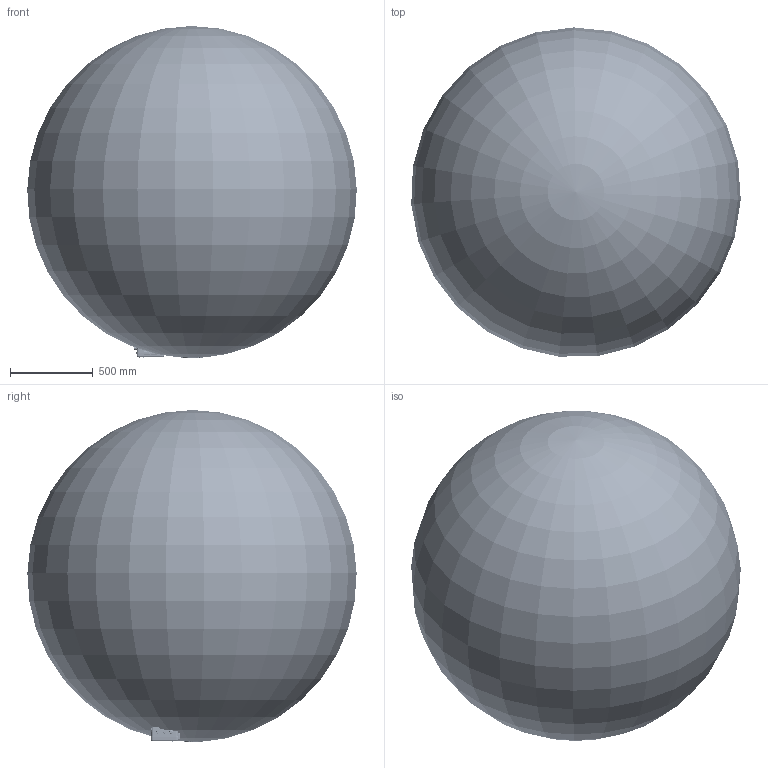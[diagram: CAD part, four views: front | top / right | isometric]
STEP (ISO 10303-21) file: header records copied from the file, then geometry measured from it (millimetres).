
FILE_DESCRIPTION(('STEP AP242'), '1');
FILE_NAME('ÑÃ-ÝÊÐ-Ð-400 ñ ÏÏÄ ñíèçó ââåðõ êîðð ñïðàâà', '', ('UNSPECIFIED'), ('UNSPECIFIED'), 'C3D Converter', 'C3D Toolkit', '');
FILE_SCHEMA(('AP242_MANAGED_MODEL_BASED_3D_ENGINEERING_MIM_LF { 1 0 10303 442 1 1 4 }'));
Length unit declared in the file: millimetre
Bounding box: 1985.06 x 1983.21 x 2000.07 mm (x, y, z)
Volume: 4145695030.3 mm3; surface area: 14047706.5 mm2
Topology: 152 solids, 152 shells, 9428 faces, 24563 edges, 15931 vertices
Faces by surface type: plane 3126, extrusion 2895, cylinder 1870, cone 821, bspline 402, torus 283, sphere 31
Full cylindrical faces by diameter (mm): 1.95 x3, 2 x33, 2.2 x2, 2.459 x8, 2.5 x10, 2.791 x2, 3 x6, 3.1 x1, 3.2 x13, 3.242 x7, 3.3 x4, 3.45 x3, 3.459 x2, 3.688 x1, 4 x29, 4.134 x1, 4.3 x12, 4.5 x1, 4.917 x15, 5 x32, 5.5 x6, 6 x57, 6.2 x6, 6.5 x6, 6.6 x4, 6.75 x2, 7 x14, 7.8 x10, 8 x16, 8.1 x1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
Entity records: 500690 total; most frequent: CARTESIAN_POINT 213547, ORIENTED_EDGE 46408, DIRECTION 33787, EDGE_CURVE 23204, VERTEX_POINT 15847, VECTOR 13233, EDGE_LOOP 11525, B_SPLINE_CURVE_WITH_KNOTS 11142
